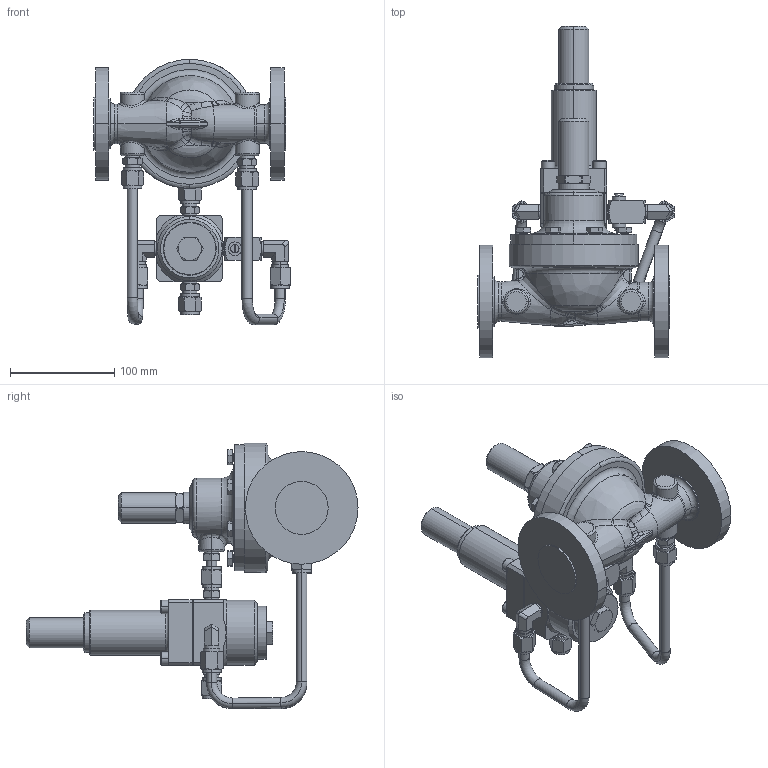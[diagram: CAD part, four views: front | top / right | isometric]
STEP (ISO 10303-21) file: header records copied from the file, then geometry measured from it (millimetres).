
FILE_DESCRIPTION((''),'2;1');
FILE_NAME('230104_ARGOS_1_150_SW0001','2019-10-29T',('jjunior'),(''),'PRO/ENGINEER BY PARAMETRIC TECHNOLOGY CORPORATION, 2010160','PRO/ENGINEER BY PARAMETRIC TECHNOLOGY CORPORATION, 2010160','');
FILE_SCHEMA(('CONFIG_CONTROL_DESIGN'));
Length unit declared in the file: millimetre
Products named in the file (1): 230104_ARGOS_1_150_SW0001
Bounding box: 188.21 x 318.5 x 254.65 mm (x, y, z)
Volume: 1762176.5 mm3; surface area: 202354.9 mm2
Topology: 1 solids, 1 shells, 929 faces, 2117 edges, 1284 vertices
Faces by surface type: plane 296, cone 258, cylinder 200, bspline 100, torus 75
Entity records: 36847 total; most frequent: CARTESIAN_POINT 17153, ORIENTED_EDGE 4234, DIRECTION 3856, EDGE_CURVE 2117, AXIS2_PLACEMENT_3D 1644, VERTEX_POINT 1284, EDGE_LOOP 1035, FACE_OUTER_BOUND 929
